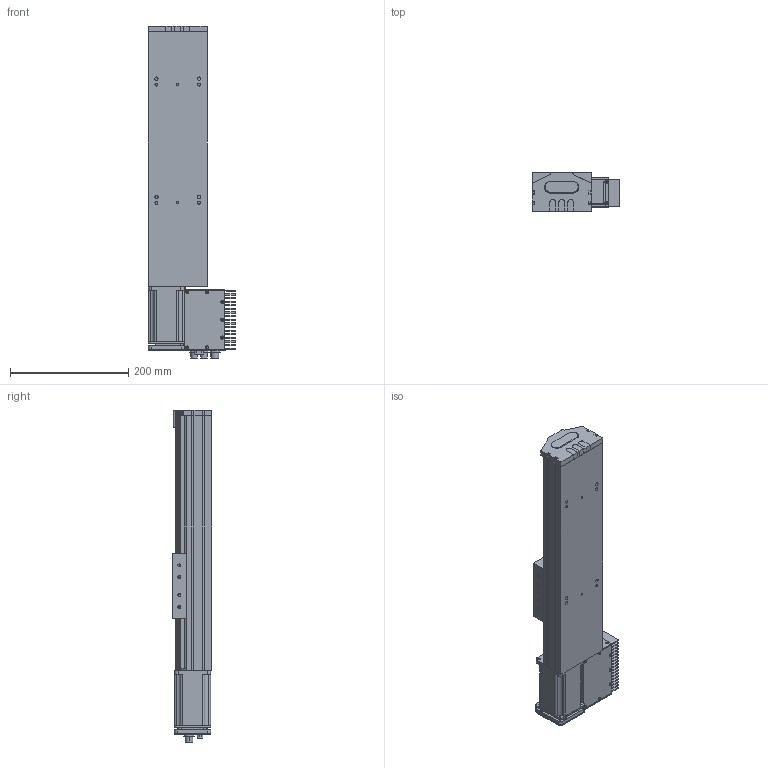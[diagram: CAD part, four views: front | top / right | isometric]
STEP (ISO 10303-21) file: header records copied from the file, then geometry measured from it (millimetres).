
FILE_DESCRIPTION (( 'STEP AP203' ), '1' );
FILE_NAME ('S 10 TSH MD S200.STEP', '2012-08-29T08:53:33', ( 'Conseil Régional Haute-Normandie' ), ( 'Conseil Régional Haute-Normandie' ), 'SwSTEP 2.0', 'SolidWorks 2010', '' );
FILE_SCHEMA (( 'CONFIG_CONTROL_DESIGN' ));
Length unit declared in the file: millimetre
Products named in the file (23): S 10 TSH MD S200; Pièce2_Default; remplir_Default; BU45 Carte d''axe A11_5; Sub D 9cts 90_X2_00B_X0__3; Moteur 60BLDC90A_3; Radiateur profil_X2_00E9_X0_ 100x25_3; Colonnette ronde_3; axe430_Default; palette tbn2; piece_plastique remplieTSH_Default; embout_modifié; Assem1_7; T_X2_00F4_X0_le contre le moteur_5; BU41 Carte Alimentation P05_3; Colonnette_3; Couvercle_3; T_X2_00F4_X0_le fond_3; Connecteur rond D10 3cts_5; Connecteur rond D12 4cts_5; T_X2_00F4_X0_le Arri_X2_00E8_X0_re_5; T_X2_00F4_X0_le lat_X2_00E9_X0_rale_5; Vis TF 3 torkx_1_1
Assembly tree (47 placements, depth 3):
  S 10 TSH MD S200
    palette tbn2
    piece_plastique remplieTSH_Default
      embout_modifié
      Pièce2_Default
      remplir_Default  x3
    Assem1_7
      Radiateur profil_X2_00E9_X0_ 100x25_3
      T_X2_00F4_X0_le lat_X2_00E9_X0_rale_5  x2
      Vis TF 3 torkx_1_1  x21
      Colonnette_3  x2
      Sub D 9cts 90_X2_00B_X0__3
      T_X2_00F4_X0_le fond_3
      BU41 Carte Alimentation P05_3
      T_X2_00F4_X0_le Arri_X2_00E8_X0_re_5
      Connecteur rond D10 3cts_5  x2
      T_X2_00F4_X0_le contre le moteur_5
      Couvercle_3
      Connecteur rond D12 4cts_5
      BU45 Carte d''axe A11_5
      Colonnette ronde_3
      Moteur 60BLDC90A_3
    axe430_Default
Bounding box: 148.26 x 66.75 x 561.6 mm (x, y, z)
Volume: 2945382.7 mm3; surface area: 459448.2 mm2
Topology: 45 solids, 45 shells, 1706 faces, 4355 edges, 2834 vertices
Faces by surface type: plane 795, cylinder 758, cone 150, torus 3
Entity records: 35566 total; most frequent: CARTESIAN_POINT 6023, DIRECTION 5788, ORIENTED_EDGE 5286, EDGE_CURVE 2643, AXIS2_PLACEMENT_3D 2112, VERTEX_POINT 1734, LINE 1564, VECTOR 1564
